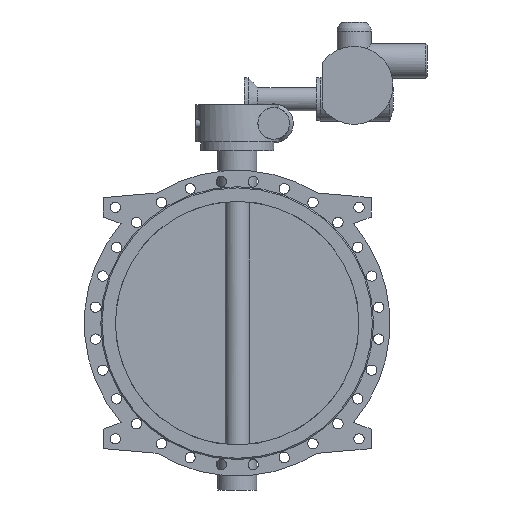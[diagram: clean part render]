
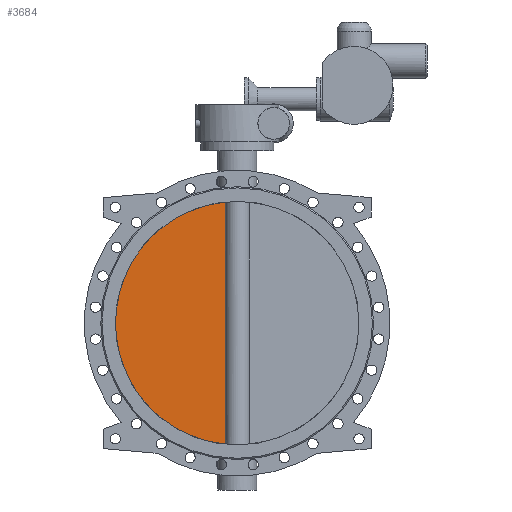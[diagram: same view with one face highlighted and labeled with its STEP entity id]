
A CAD part, front view. The second image highlights one B-rep face of the part: STEP entity #3684.
In plain terms, the highlighted planar face has unit normal (0, -1, 0).
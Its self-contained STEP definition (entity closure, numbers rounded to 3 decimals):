
#3684=ADVANCED_FACE('',(#7018),#7020,.T.);
#7018=FACE_BOUND('',#7019,.T.);
#7019=EDGE_LOOP('',(#9079,#9080));
#7020=PLANE('',#7021);
#7021=AXIS2_PLACEMENT_3D('',#7022,#7023,#7024);
#7022=CARTESIAN_POINT('',(0.,-10.,0.));
#7023=DIRECTION('',(0.,-1.,0.));
#7024=DIRECTION('',(1.,0.,0.));
#9079=ORIENTED_EDGE('',*,*,#10100,.T.);
#9080=ORIENTED_EDGE('',*,*,#10109,.T.);
#10100=EDGE_CURVE('',#11836,#11834,#11837,.F.);
#10109=EDGE_CURVE('',#11834,#11836,#11852,.F.);
#11834=VERTEX_POINT('',#17891);
#11836=VERTEX_POINT('',#17983);
#11837=CIRCLE('',#17984,500.);
#11852=LINE('',#18241,#18242);
#17891=CARTESIAN_POINT('',(-48.99,-10.,-497.594));
#17983=CARTESIAN_POINT('',(-48.99,-10.,497.594));
#17984=AXIS2_PLACEMENT_3D('',#17985,#17986,#17987);
#17985=CARTESIAN_POINT('',(0.,-10.,0.));
#17986=DIRECTION('',(0.,1.,0.));
#17987=DIRECTION('',(-0.098,0.,-0.995));
#18241=CARTESIAN_POINT('',(-48.99,-10.,497.594));
#18242=VECTOR('',#18243,1.);
#18243=DIRECTION('',(0.,0.,-1.));
